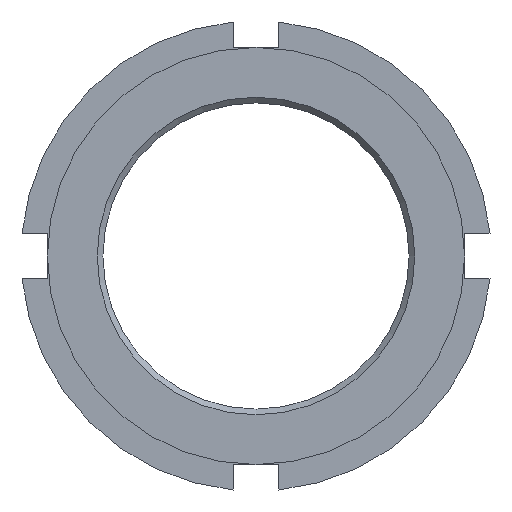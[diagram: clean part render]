
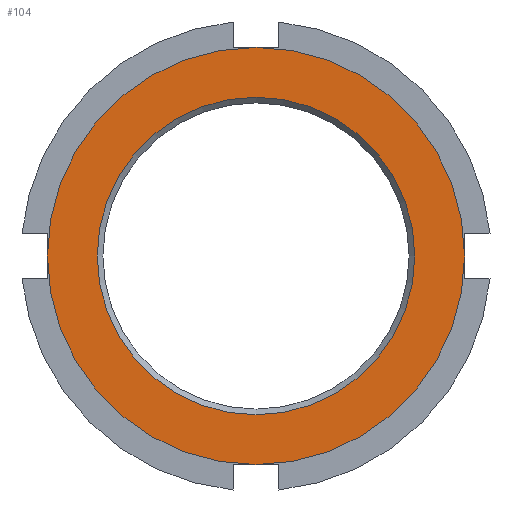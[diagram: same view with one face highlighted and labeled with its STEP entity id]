
A CAD part, left-side view. The second image highlights one B-rep face of the part: STEP entity #104.
In plain terms, the highlighted planar face has unit normal (-1, 0, 0).
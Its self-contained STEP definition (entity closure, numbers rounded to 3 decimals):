
#104 = ADVANCED_FACE( '', ( #177, #178 ), #179, .F. );
#177 = FACE_OUTER_BOUND( '', #255, .T. );
#178 = FACE_BOUND( '', #256, .T. );
#179 = PLANE( '', #257 );
#255 = EDGE_LOOP( '', ( #475 ) );
#256 = EDGE_LOOP( '', ( #476 ) );
#257 = AXIS2_PLACEMENT_3D( '', #477, #478, #479 );
#475 = ORIENTED_EDGE( '', *, *, #570, .F. );
#476 = ORIENTED_EDGE( '', *, *, #550, .T. );
#477 = CARTESIAN_POINT( '', ( 0., 0., 0. ) );
#478 = DIRECTION( '', ( 1., 0., 0. ) );
#479 = DIRECTION( '', ( 0., 0., -1. ) );
#550 = EDGE_CURVE( '', #656, #656, #657, .T. );
#570 = EDGE_CURVE( '', #684, #684, #685, .T. );
#656 = VERTEX_POINT( '', #841 );
#657 = CIRCLE( '', #842, 20.938 );
#684 = VERTEX_POINT( '', #880 );
#685 = CIRCLE( '', #881, 27.5 );
#841 = CARTESIAN_POINT( '', ( 0., 0., -20.938 ) );
#842 = AXIS2_PLACEMENT_3D( '', #971, #972, #973 );
#880 = CARTESIAN_POINT( '', ( 0., 0., -27.5 ) );
#881 = AXIS2_PLACEMENT_3D( '', #1018, #1019, #1020 );
#971 = CARTESIAN_POINT( '', ( 0., 0., 0. ) );
#972 = DIRECTION( '', ( 1., 0., 0. ) );
#973 = DIRECTION( '', ( 0., 0., -1. ) );
#1018 = CARTESIAN_POINT( '', ( 0., 0., 0. ) );
#1019 = DIRECTION( '', ( 1., 0., 0. ) );
#1020 = DIRECTION( '', ( 0., 0., -1. ) );
